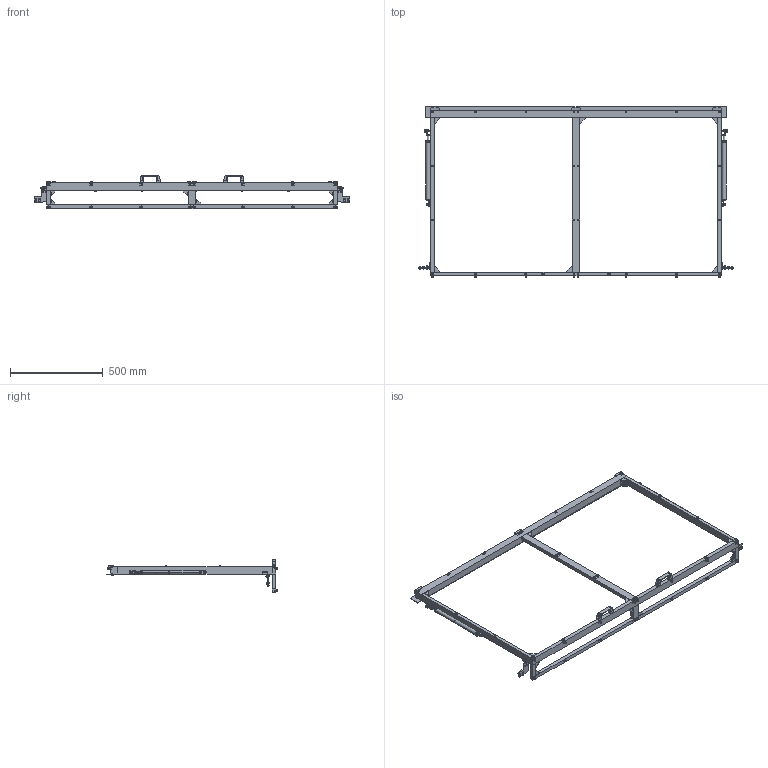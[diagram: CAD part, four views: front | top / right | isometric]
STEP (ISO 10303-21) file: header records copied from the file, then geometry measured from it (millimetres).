
FILE_DESCRIPTION(/* description */ (''),/* implementation_level */ '2;1');
FILE_NAME(/* name */ 'frame-door',/* time_stamp */ '2013-11-26T23:53:27+01:00',/* author */ (''),/* organization */ (''),/* preprocessor_version */ 'ST-DEVELOPER v14',/* originating_system */ '',/* authorisation */ '');
FILE_SCHEMA (('AUTOMOTIVE_DESIGN'));
Products named in the file (18): Document; screw DIN912-like, M5x12; nut tslot, post, M5; tslot nut, pre, M3; washer Schnorr-like, lock, M3; screw DIN912-like, M3x10; screw DIN912-like, M5x08; angle bracket, single; screw DIN912-like, M5x10; angle bracket, semi, double; washer DIN125-like, form A, M5; washer DIN9021-like, form G, M5; screw DIN912-like, M5x20; screw DIN7991, sunk, M5x08; door hinge; tslot nut, pre, M5; nut DIN934-like, M3; screw DIN912-like, M3x16
Assembly tree (160 placements, depth 2):
  Document
    screw DIN912-like, M5x12  x4
    nut tslot, post, M5  x49
    tslot nut, pre, M3  x2
    washer Schnorr-like, lock, M3  x10
    screw DIN912-like, M3x10  x2
    screw DIN912-like, M5x08  x23
    angle bracket, single  x6
    screw DIN912-like, M5x10  x20
    angle bracket, semi, double  x2
    washer DIN125-like, form A, M5  x12
    washer DIN9021-like, form G, M5  x10
    screw DIN912-like, M5x20  x2
    screw DIN7991, sunk, M5x08  x6
    door hinge  x2
    tslot nut, pre, M5  x6
    nut DIN934-like, M3  x2
    screw DIN912-like, M3x16  x2
Bounding box: 1696 x 918 x 178.99 mm (x, y, z)
Volume: 7026772.2 mm3; surface area: 1394245.6 mm2
Topology: 252 solids, 914 shells, 5718 faces, 14608 edges, 9978 vertices
Faces by surface type: plane 3582, bspline 2136
Entity records: 212536 total; most frequent: CARTESIAN_POINT 101193, B_SPLINE_CURVE_WITH_KNOTS 18401, ORIENTED_EDGE 15102, PCURVE 15102, DEFINITIONAL_REPRESENTATION 15102, SURFACE_CURVE 8333, EDGE_CURVE 8333, VERTEX_POINT 5882
